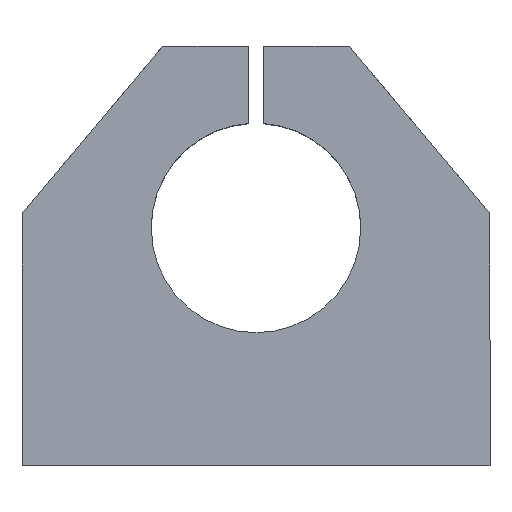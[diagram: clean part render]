
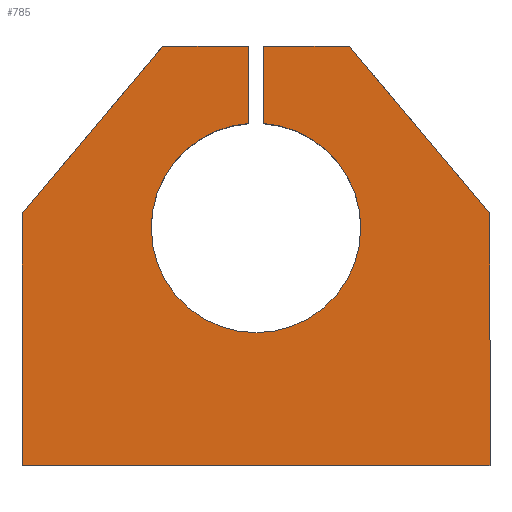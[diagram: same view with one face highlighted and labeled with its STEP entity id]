
A CAD part, top view. The second image highlights one B-rep face of the part: STEP entity #785.
In plain terms, the highlighted planar face has unit normal (0, 0, 1).
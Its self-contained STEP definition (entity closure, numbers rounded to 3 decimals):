
#8 = VECTOR ( 'NONE', #643, 1000. ) ;
#15 = CARTESIAN_POINT ( 'NONE',  ( -33.5, 6., 15. ) ) ;
#27 = VERTEX_POINT ( 'NONE', #1057 ) ;
#31 = CIRCLE ( 'NONE', #614, 15. ) ;
#36 = ORIENTED_EDGE ( 'NONE', *, *, #644, .T. ) ;
#72 = VERTEX_POINT ( 'NONE', #111 ) ;
#94 = DIRECTION ( 'NONE',  ( 1., 0., 0. ) ) ;
#111 = CARTESIAN_POINT ( 'NONE',  ( 33.5, 6., 15. ) ) ;
#118 = VERTEX_POINT ( 'NONE', #976 ) ;
#124 = EDGE_CURVE ( 'NONE', #1034, #352, #31, .T. ) ;
#142 = EDGE_CURVE ( 'NONE', #703, #837, #985, .T. ) ;
#143 = ORIENTED_EDGE ( 'NONE', *, *, #562, .T. ) ;
#147 = LINE ( 'NONE', #1093, #207 ) ;
#150 = VECTOR ( 'NONE', #625, 1000. ) ;
#166 = AXIS2_PLACEMENT_3D ( 'NONE', #979, #502, #1067 ) ;
#182 = CARTESIAN_POINT ( 'NONE',  ( 0., 4., 15. ) ) ;
#207 = VECTOR ( 'NONE', #622, 1000. ) ;
#222 = CARTESIAN_POINT ( 'NONE',  ( 15., 4., 15. ) ) ;
#236 = AXIS2_PLACEMENT_3D ( 'NONE', #470, #945, #1135 ) ;
#242 = DIRECTION ( 'NONE',  ( 1., 0., 0. ) ) ;
#248 = VERTEX_POINT ( 'NONE', #1139 ) ;
#260 = CARTESIAN_POINT ( 'NONE',  ( 33.5, 30., 15. ) ) ;
#274 = LINE ( 'NONE', #260, #150 ) ;
#283 = CARTESIAN_POINT ( 'NONE',  ( -33.5, -30., 15. ) ) ;
#291 = CARTESIAN_POINT ( 'NONE',  ( 1.075, 30., 15. ) ) ;
#299 = CARTESIAN_POINT ( 'NONE',  ( 13.362, 30., 15. ) ) ;
#306 = EDGE_CURVE ( 'NONE', #118, #1034, #1066, .T. ) ;
#311 = ORIENTED_EDGE ( 'NONE', *, *, #477, .F. ) ;
#321 = PLANE ( 'NONE',  #166 ) ;
#352 = VERTEX_POINT ( 'NONE', #743 ) ;
#376 = ORIENTED_EDGE ( 'NONE', *, *, #897, .T. ) ;
#382 = VECTOR ( 'NONE', #764, 1000. ) ;
#406 = VERTEX_POINT ( 'NONE', #299 ) ;
#416 = ORIENTED_EDGE ( 'NONE', *, *, #1179, .T. ) ;
#427 = CARTESIAN_POINT ( 'NONE',  ( -13.362, 30., 15. ) ) ;
#428 = EDGE_CURVE ( 'NONE', #837, #27, #834, .T. ) ;
#433 = CARTESIAN_POINT ( 'NONE',  ( -1.075, 18.961, 15. ) ) ;
#435 = VERTEX_POINT ( 'NONE', #1128 ) ;
#464 = ORIENTED_EDGE ( 'NONE', *, *, #428, .T. ) ;
#470 = CARTESIAN_POINT ( 'NONE',  ( 0., 4., 15. ) ) ;
#476 = EDGE_CURVE ( 'NONE', #352, #744, #628, .T. ) ;
#477 = EDGE_CURVE ( 'NONE', #744, #435, #1103, .T. ) ;
#496 = VECTOR ( 'NONE', #1176, 1000. ) ;
#502 = DIRECTION ( 'NONE',  ( 0., 0., 1. ) ) ;
#562 = EDGE_CURVE ( 'NONE', #27, #72, #274, .T. ) ;
#587 = ORIENTED_EDGE ( 'NONE', *, *, #476, .F. ) ;
#591 = DIRECTION ( 'NONE',  ( 0., 0., 1. ) ) ;
#614 = AXIS2_PLACEMENT_3D ( 'NONE', #700, #591, #242 ) ;
#622 = DIRECTION ( 'NONE',  ( -0.643, -0.766, 0. ) ) ;
#625 = DIRECTION ( 'NONE',  ( 0., 1., 0. ) ) ;
#628 = CIRCLE ( 'NONE', #236, 15. ) ;
#631 = EDGE_CURVE ( 'NONE', #118, #963, #832, .T. ) ;
#643 = DIRECTION ( 'NONE',  ( 0., -1., 0. ) ) ;
#644 = EDGE_CURVE ( 'NONE', #72, #406, #868, .T. ) ;
#654 = DIRECTION ( 'NONE',  ( -1., 0., 0. ) ) ;
#659 = CARTESIAN_POINT ( 'NONE',  ( 22.613, 18.975, 15. ) ) ;
#664 = LINE ( 'NONE', #973, #790 ) ;
#666 = VECTOR ( 'NONE', #1206, 1000. ) ;
#700 = CARTESIAN_POINT ( 'NONE',  ( 0., 4., 15. ) ) ;
#703 = VERTEX_POINT ( 'NONE', #15 ) ;
#739 = CARTESIAN_POINT ( 'NONE',  ( -33.5, 30., 15. ) ) ;
#743 = CARTESIAN_POINT ( 'NONE',  ( -15., 4., 15. ) ) ;
#744 = VERTEX_POINT ( 'NONE', #222 ) ;
#764 = DIRECTION ( 'NONE',  ( -0.643, 0.766, 0. ) ) ;
#782 = DIRECTION ( 'NONE',  ( 0., -1., 0. ) ) ;
#785 = ADVANCED_FACE ( 'NONE', ( #1158 ), #321, .T. ) ;
#790 = VECTOR ( 'NONE', #984, 1000. ) ;
#832 = LINE ( 'NONE', #739, #1174 ) ;
#834 = LINE ( 'NONE', #283, #666 ) ;
#837 = VERTEX_POINT ( 'NONE', #908 ) ;
#865 = CARTESIAN_POINT ( 'NONE',  ( -1.075, 30., 15. ) ) ;
#868 = LINE ( 'NONE', #659, #382 ) ;
#887 = EDGE_LOOP ( 'NONE', ( #416, #376, #311, #587, #987, #931, #1015, #999, #1035, #464, #143, #36 ) ) ;
#892 = AXIS2_PLACEMENT_3D ( 'NONE', #182, #937, #94 ) ;
#897 = EDGE_CURVE ( 'NONE', #248, #435, #1111, .T. ) ;
#898 = CARTESIAN_POINT ( 'NONE',  ( -33.5, 30., 15. ) ) ;
#908 = CARTESIAN_POINT ( 'NONE',  ( -33.5, -30., 15. ) ) ;
#931 = ORIENTED_EDGE ( 'NONE', *, *, #306, .F. ) ;
#937 = DIRECTION ( 'NONE',  ( 0., 0., 1. ) ) ;
#945 = DIRECTION ( 'NONE',  ( 0., 0., 1. ) ) ;
#963 = VERTEX_POINT ( 'NONE', #427 ) ;
#973 = CARTESIAN_POINT ( 'NONE',  ( -33.5, 30., 15. ) ) ;
#976 = CARTESIAN_POINT ( 'NONE',  ( -1.075, 30., 15. ) ) ;
#979 = CARTESIAN_POINT ( 'NONE',  ( 0., 0., 15. ) ) ;
#984 = DIRECTION ( 'NONE',  ( -1., 0., 0. ) ) ;
#985 = LINE ( 'NONE', #898, #496 ) ;
#987 = ORIENTED_EDGE ( 'NONE', *, *, #124, .F. ) ;
#988 = EDGE_CURVE ( 'NONE', #963, #703, #147, .T. ) ;
#999 = ORIENTED_EDGE ( 'NONE', *, *, #988, .T. ) ;
#1015 = ORIENTED_EDGE ( 'NONE', *, *, #631, .T. ) ;
#1034 = VERTEX_POINT ( 'NONE', #433 ) ;
#1035 = ORIENTED_EDGE ( 'NONE', *, *, #142, .T. ) ;
#1057 = CARTESIAN_POINT ( 'NONE',  ( 33.5, -30., 15. ) ) ;
#1066 = LINE ( 'NONE', #865, #1203 ) ;
#1067 = DIRECTION ( 'NONE',  ( 1., 0., 0. ) ) ;
#1093 = CARTESIAN_POINT ( 'NONE',  ( -22.613, 18.975, 15. ) ) ;
#1103 = CIRCLE ( 'NONE', #892, 15. ) ;
#1111 = LINE ( 'NONE', #291, #8 ) ;
#1128 = CARTESIAN_POINT ( 'NONE',  ( 1.075, 18.961, 15. ) ) ;
#1135 = DIRECTION ( 'NONE',  ( 1., 0., 0. ) ) ;
#1139 = CARTESIAN_POINT ( 'NONE',  ( 1.075, 30., 15. ) ) ;
#1158 = FACE_OUTER_BOUND ( 'NONE', #887, .T. ) ;
#1174 = VECTOR ( 'NONE', #654, 1000. ) ;
#1176 = DIRECTION ( 'NONE',  ( 0., -1., 0. ) ) ;
#1179 = EDGE_CURVE ( 'NONE', #406, #248, #664, .T. ) ;
#1203 = VECTOR ( 'NONE', #782, 1000. ) ;
#1206 = DIRECTION ( 'NONE',  ( 1., 0., 0. ) ) ;
